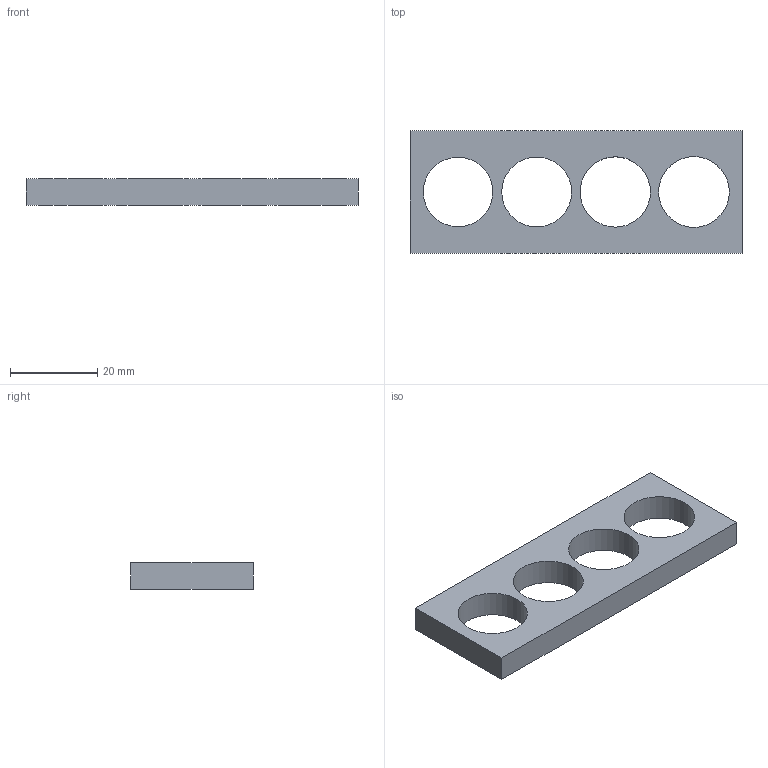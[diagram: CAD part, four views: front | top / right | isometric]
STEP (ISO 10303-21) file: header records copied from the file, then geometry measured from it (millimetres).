
FILE_DESCRIPTION(('Open CASCADE Model'),'2;1');
FILE_NAME('Open CASCADE Shape Model','2026-10-21T12:04:47',('Author'),( 'Open CASCADE'),'Open CASCADE STEP processor 7.9','Open CASCADE 7.9' ,'Unknown');
FILE_SCHEMA(('AUTOMOTIVE_DESIGN { 1 0 10303 214 1 1 1 1 }'));
Length unit declared in the file: millimetre
Products named in the file (1): Open CASCADE STEP translator 7.9 31
Bounding box: 76 x 28 x 6 mm (x, y, z)
Volume: 7912.1 mm3; surface area: 5095.5 mm2
Topology: 1 solids, 1 shells, 10 faces, 24 edges, 16 vertices
Faces by surface type: plane 6, cylinder 4
Full cylindrical faces by diameter (mm): 15.9 x1, 16 x1, 16.1 x1, 16.2 x1
Entity records: 658 total; most frequent: CARTESIAN_POINT 147, DIRECTION 94, LINE 56, VECTOR 56, ORIENTED_EDGE 48, PCURVE 48, DEFINITIONAL_REPRESENTATION 48, EDGE_CURVE 24
